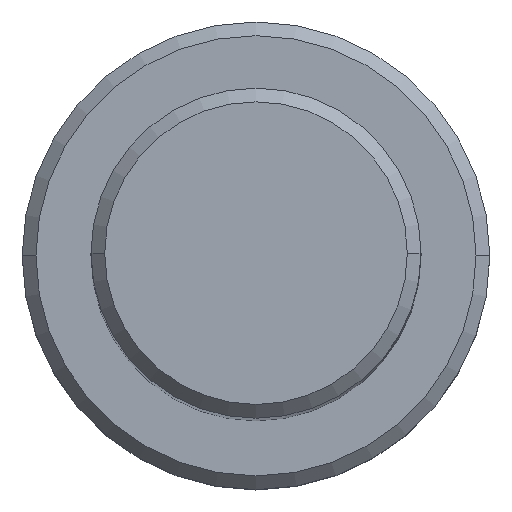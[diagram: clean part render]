
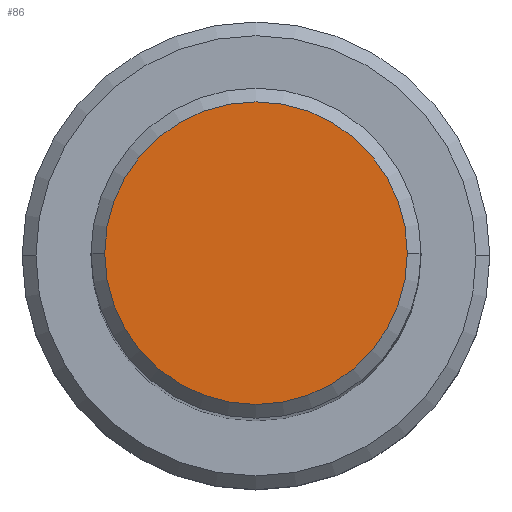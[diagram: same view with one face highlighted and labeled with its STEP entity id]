
A CAD part, top view. The second image highlights one B-rep face of the part: STEP entity #86.
In plain terms, the highlighted planar face has unit normal (0, 0, 1).
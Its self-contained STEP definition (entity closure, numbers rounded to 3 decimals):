
#86=ADVANCED_FACE('',(#168),#169,.T.);
#168=FACE_OUTER_BOUND('',#241,.T.);
#169=PLANE('',#242);
#241=EDGE_LOOP('',(#404,#405));
#242=AXIS2_PLACEMENT_3D('',#406,#407,#408);
#404=ORIENTED_EDGE('',*,*,#450,.T.);
#405=ORIENTED_EDGE('',*,*,#446,.T.);
#406=CARTESIAN_POINT('',(0.0,0.0,0.0));
#407=DIRECTION('',(0.0,0.0,1.0));
#408=DIRECTION('',(1.0,0.0,0.0));
#446=EDGE_CURVE('',#530,#528,#531,.T.);
#450=EDGE_CURVE('',#528,#530,#535,.T.);
#528=VERTEX_POINT('',#629);
#530=VERTEX_POINT('',#632);
#531=CIRCLE('',#633,5.5);
#535=CIRCLE('',#638,5.5);
#629=CARTESIAN_POINT('',(-5.5,0.0,0.0));
#632=CARTESIAN_POINT('',(5.5,0.,0.0));
#633=AXIS2_PLACEMENT_3D('',#707,#708,#709);
#638=AXIS2_PLACEMENT_3D('',#714,#715,#716);
#707=CARTESIAN_POINT('',(0.0,0.0,0.0));
#708=DIRECTION('',(0.0,0.0,1.0));
#709=DIRECTION('',(-1.0,0.0,0.0));
#714=CARTESIAN_POINT('',(0.0,0.0,0.0));
#715=DIRECTION('',(0.0,0.0,1.0));
#716=DIRECTION('',(-1.0,0.0,0.0));
